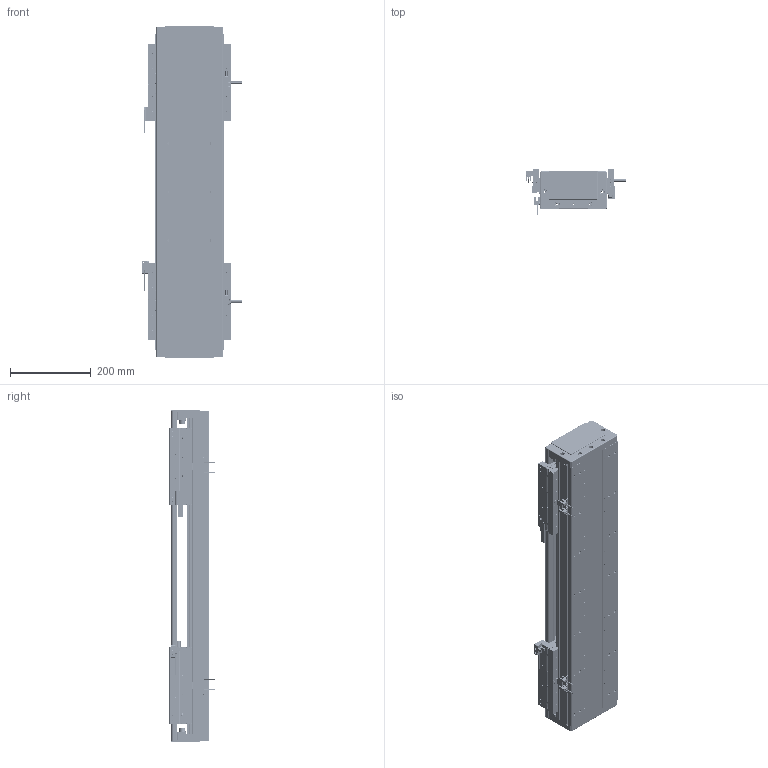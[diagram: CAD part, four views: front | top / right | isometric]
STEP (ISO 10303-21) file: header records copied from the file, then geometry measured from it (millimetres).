
FILE_DESCRIPTION (( 'STEP AP203' ), '1' );
FILE_NAME ('DA-C165-2-C2-T320-C010-0.2 直线电机.STEP', '2023-05-11T08:15:34', ( '微软用户' ), ( '微软中国' ), 'SwSTEP 2.0', 'SolidWorks 2019', '' );
FILE_SCHEMA (( 'CONFIG_CONTROL_DESIGN' ));
Length unit declared in the file: millimetre
Products named in the file (19): 复件 DA165-DG-H-N-00 端盖^DA-C165-C2-T-C010-0.2-N 直线电机; 葩璃 PM-T45^DA-C165-C2-T-C010-0.2-N 眻盄萇儂; 葩璃 PM-Y45^DA-C165-C2-T-C010-0.2-N 眻盄萇儂; IU-CU165-L-00 菁釱_L780; 复件 DMA-010-0.2 读数头^DA-C165-C2-T-C010-0.2-N 直线电机; 复件 66338-1000-006-00 光电感应块^DA-C165-C2-T-C010-0.2-N 直线电机; 复件 DA165-GYP-00 光电感应片^DA-C165-C2-T-C010-0.2-N 直线电机; DA-C165-2-C2-T320-C010-0.2 眻盄萇儂; 复件 CKM02-W075-C1C2-TP-3.0 一体电机-C2^DA-C165-C2-T-C010-0.2-N 直线电机; 珨极趙賑雄怢啣wf-C2; 葩璃 DA95-GT-T-00^IU-CU165-L 菁釱絳寢_T; 复件 DKW-HXJ-JY-00 缓冲橡胶^DA-C165-C2-T-C010-0.2-N 直线电机; 葩璃 CKM01-W075-TRL^DA-C165-C2-T-C010-0.2-N 眻盄萇儂; 复件 XD-U-02L 磁栅尺^DA-C165-C2-T-C010-0.2-N 直线电机_T; 复件 DA126-GYP-ZJ-00 中间光电感应片^DA-C165-C2-T-C010-0.2-N 直线电机; 复件 DA165-T-002-00 盖板^DA-C165-C2-T-C010-0.2-N 直线电机_0840-002-00; 复件 DA95-HXJ-00 缓冲橡胶^DA-C165-C2-T-C010-0.2-N 直线电机; 复件 六角薄螺母 M3^DA-C165-C2-T-C010-0.2-N 直线电机_GB_FASTENER_NUT_STNAB M3-C; IU-CU165-L 菁釱絳寢
Assembly tree (38 placements, depth 3):
  DA-C165-2-C2-T320-C010-0.2 眻盄萇儂
    IU-CU165-L 菁釱絳寢
      IU-CU165-L-00 菁釱_L780
      葩璃 DA95-GT-T-00^IU-CU165-L 菁釱絳寢_T  x4
    复件 DA165-DG-H-N-00 端盖^DA-C165-C2-T-C010-0.2-N 直线电机  x2
    复件 DA95-HXJ-00 缓冲橡胶^DA-C165-C2-T-C010-0.2-N 直线电机  x4
    复件 DA165-T-002-00 盖板^DA-C165-C2-T-C010-0.2-N 直线电机_0840-002-00
    复件 XD-U-02L 磁栅尺^DA-C165-C2-T-C010-0.2-N 直线电机_T
    葩璃 PM-T45^DA-C165-C2-T-C010-0.2-N 眻盄萇儂  x4
    葩璃 CKM01-W075-TRL^DA-C165-C2-T-C010-0.2-N 眻盄萇儂
    复件 CKM02-W075-C1C2-TP-3.0 一体电机-C2^DA-C165-C2-T-C010-0.2-N 直线电机  x2
    复件 DMA-010-0.2 读数头^DA-C165-C2-T-C010-0.2-N 直线电机  x2
    复件 DA165-GYP-00 光电感应片^DA-C165-C2-T-C010-0.2-N 直线电机  x2
    复件 66338-1000-006-00 光电感应块^DA-C165-C2-T-C010-0.2-N 直线电机
    葩璃 PM-Y45^DA-C165-C2-T-C010-0.2-N 眻盄萇儂
    复件 DA126-GYP-ZJ-00 中间光电感应片^DA-C165-C2-T-C010-0.2-N 直线电机
    复件 DKW-HXJ-JY-00 缓冲橡胶^DA-C165-C2-T-C010-0.2-N 直线电机  x2
    复件 六角薄螺母 M3^DA-C165-C2-T-C010-0.2-N 直线电机_GB_FASTENER_NUT_STNAB M3-C  x6
    珨极趙賑雄怢啣wf-C2  x2
Bounding box: 247.2 x 111.45 x 820 mm (x, y, z)
Volume: 8044617.3 mm3; surface area: 2011637.3 mm2
Topology: 115 solids, 115 shells, 4732 faces, 12479 edges, 7738 vertices
Faces by surface type: cylinder 2198, plane 1758, cone 680, torus 88, sphere 8
Entity records: 91796 total; most frequent: CARTESIAN_POINT 20320, DIRECTION 14675, ORIENTED_EDGE 14204, EDGE_CURVE 7102, AXIS2_PLACEMENT_3D 5442, VERTEX_POINT 4575, LINE 3791, VECTOR 3791
